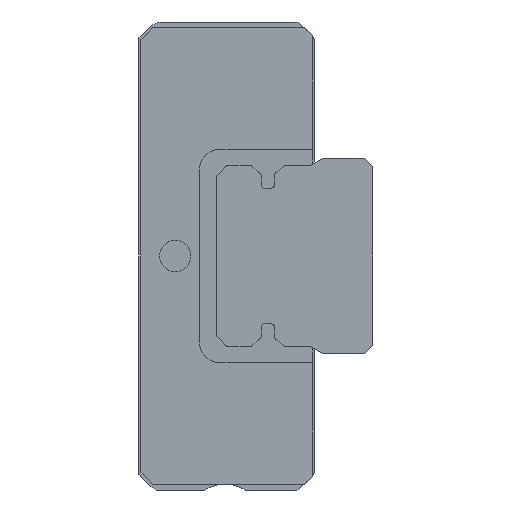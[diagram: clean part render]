
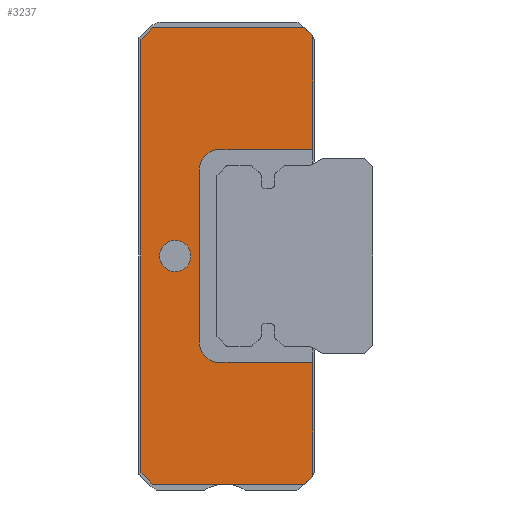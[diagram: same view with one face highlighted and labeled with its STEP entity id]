
A CAD part, left-side view. The second image highlights one B-rep face of the part: STEP entity #3237.
In plain terms, the highlighted planar face has unit normal (-1, 0, 0).
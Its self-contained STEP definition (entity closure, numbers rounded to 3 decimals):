
#215=CIRCLE('',#3553,0.5);
#216=CIRCLE('',#3556,0.5);
#217=CIRCLE('',#3560,0.4);
#927=ORIENTED_EDGE('',*,*,#1567,.F.);
#928=ORIENTED_EDGE('',*,*,#1568,.F.);
#929=ORIENTED_EDGE('',*,*,#1358,.T.);
#930=ORIENTED_EDGE('',*,*,#1356,.T.);
#931=ORIENTED_EDGE('',*,*,#1406,.T.);
#932=ORIENTED_EDGE('',*,*,#1565,.T.);
#933=ORIENTED_EDGE('',*,*,#1563,.T.);
#934=ORIENTED_EDGE('',*,*,#1561,.T.);
#935=ORIENTED_EDGE('',*,*,#1559,.T.);
#936=ORIENTED_EDGE('',*,*,#1566,.T.);
#937=ORIENTED_EDGE('',*,*,#1401,.T.);
#938=ORIENTED_EDGE('',*,*,#1302,.T.);
#939=ORIENTED_EDGE('',*,*,#1299,.T.);
#940=ORIENTED_EDGE('',*,*,#1569,.F.);
#941=ORIENTED_EDGE('',*,*,#1570,.F.);
#1299=EDGE_CURVE('',#1720,#1723,#2028,.T.);
#1302=EDGE_CURVE('',#1725,#1720,#2031,.T.);
#1356=EDGE_CURVE('',#1766,#1772,#2085,.T.);
#1358=EDGE_CURVE('',#1774,#1766,#2087,.T.);
#1401=EDGE_CURVE('',#1801,#1725,#2126,.T.);
#1406=EDGE_CURVE('',#1772,#1804,#2131,.T.);
#1559=EDGE_CURVE('',#1919,#1918,#215,.T.);
#1561=EDGE_CURVE('',#1920,#1919,#2222,.T.);
#1563=EDGE_CURVE('',#1921,#1920,#216,.T.);
#1565=EDGE_CURVE('',#1804,#1921,#2225,.T.);
#1566=EDGE_CURVE('',#1918,#1801,#2226,.T.);
#1567=EDGE_CURVE('',#1922,#1922,#217,.F.);
#1568=EDGE_CURVE('',#1774,#1923,#2227,.T.);
#1569=EDGE_CURVE('',#1924,#1723,#2228,.T.);
#1570=EDGE_CURVE('',#1923,#1924,#2229,.T.);
#1720=VERTEX_POINT('',#4870);
#1723=VERTEX_POINT('',#4875);
#1725=VERTEX_POINT('',#4882);
#1766=VERTEX_POINT('',#4981);
#1772=VERTEX_POINT('',#4992);
#1774=VERTEX_POINT('',#4998);
#1801=VERTEX_POINT('',#5080);
#1804=VERTEX_POINT('',#5088);
#1918=VERTEX_POINT('',#5390);
#1919=VERTEX_POINT('',#5392);
#1920=VERTEX_POINT('',#5396);
#1921=VERTEX_POINT('',#5400);
#1922=VERTEX_POINT('',#5408);
#1923=VERTEX_POINT('',#5410);
#1924=VERTEX_POINT('',#5412);
#2028=LINE('',#4876,#2365);
#2031=LINE('',#4881,#2368);
#2085=LINE('',#4993,#2422);
#2087=LINE('',#4997,#2424);
#2126=LINE('',#5079,#2463);
#2131=LINE('',#5089,#2468);
#2222=LINE('',#5395,#2559);
#2225=LINE('',#5403,#2562);
#2226=LINE('',#5405,#2563);
#2227=LINE('',#5409,#2564);
#2228=LINE('',#5411,#2565);
#2229=LINE('',#5413,#2566);
#2365=VECTOR('',#3932,1000.);
#2368=VECTOR('',#3937,1000.);
#2422=VECTOR('',#4011,1000.);
#2424=VECTOR('',#4015,1000.);
#2463=VECTOR('',#4086,1000.);
#2468=VECTOR('',#4093,1000.);
#2559=VECTOR('',#4384,1000.);
#2562=VECTOR('',#4393,1000.);
#2563=VECTOR('',#4396,1000.);
#2564=VECTOR('',#4401,1000.);
#2565=VECTOR('',#4402,1000.);
#2566=VECTOR('',#4403,1000.);
#2745=EDGE_LOOP('',(#927));
#2746=EDGE_LOOP('',(#928,#929,#930,#931,#932,#933,#934,#935,#936,#937,#938,
#939,#940,#941));
#2944=FACE_BOUND('',#2745,.T.);
#2945=FACE_BOUND('',#2746,.T.);
#3091=PLANE('',#3559);
#3237=ADVANCED_FACE('',(#2944,#2945),#3091,.F.);
#3553=AXIS2_PLACEMENT_3D('',#5391,#4379,#4380);
#3556=AXIS2_PLACEMENT_3D('',#5399,#4388,#4389);
#3559=AXIS2_PLACEMENT_3D('',#5406,#4397,#4398);
#3560=AXIS2_PLACEMENT_3D('',#5407,#4399,#4400);
#3932=DIRECTION('',(0.,1.,0.));
#3937=DIRECTION('',(0.,0.707,0.707));
#4011=DIRECTION('',(0.,-0.707,0.707));
#4015=DIRECTION('',(0.,-1.,0.));
#4086=DIRECTION('',(0.,0.,1.));
#4093=DIRECTION('',(0.,0.,1.));
#4379=DIRECTION('',(1.,0.,0.));
#4380=DIRECTION('',(0.,0.,-1.));
#4384=DIRECTION('',(0.,0.,1.));
#4388=DIRECTION('',(1.,0.,0.));
#4389=DIRECTION('',(0.,0.,-1.));
#4393=DIRECTION('',(0.,1.,0.));
#4396=DIRECTION('',(0.,-1.,0.));
#4397=DIRECTION('',(1.,0.,0.));
#4398=DIRECTION('',(0.,0.,-1.));
#4399=DIRECTION('',(1.,0.,0.));
#4400=DIRECTION('',(0.,0.,-1.));
#4401=DIRECTION('',(0.,0.707,0.707));
#4402=DIRECTION('',(0.,-0.707,0.707));
#4403=DIRECTION('',(0.,0.,1.));
#4870=CARTESIAN_POINT('',(-7.95,0.25,5.85));
#4875=CARTESIAN_POINT('',(-7.95,4.15,5.85));
#4876=CARTESIAN_POINT('',(-7.95,4.1,5.85));
#4881=CARTESIAN_POINT('',(-7.95,0.25,5.85));
#4882=CARTESIAN_POINT('',(-7.95,0.05,5.65));
#4981=CARTESIAN_POINT('',(-7.95,0.25,-5.85));
#4992=CARTESIAN_POINT('',(-7.95,0.05,-5.65));
#4993=CARTESIAN_POINT('',(-7.95,0.05,-5.65));
#4997=CARTESIAN_POINT('',(-7.95,0.25,-5.85));
#4998=CARTESIAN_POINT('',(-7.95,4.15,-5.85));
#5079=CARTESIAN_POINT('',(-7.95,0.05,5.65));
#5080=CARTESIAN_POINT('',(-7.95,0.05,2.73));
#5088=CARTESIAN_POINT('',(-7.95,0.05,-2.73));
#5089=CARTESIAN_POINT('',(-7.95,0.05,5.65));
#5390=CARTESIAN_POINT('',(-7.95,2.45,2.73));
#5391=CARTESIAN_POINT('',(-7.95,2.45,2.23));
#5392=CARTESIAN_POINT('',(-7.95,2.95,2.23));
#5395=CARTESIAN_POINT('',(-7.95,2.95,-2.23));
#5396=CARTESIAN_POINT('',(-7.95,2.95,-2.23));
#5399=CARTESIAN_POINT('',(-7.95,2.45,-2.23));
#5400=CARTESIAN_POINT('',(-7.95,2.45,-2.73));
#5403=CARTESIAN_POINT('',(-7.95,0.05,-2.73));
#5405=CARTESIAN_POINT('',(-7.95,2.45,2.73));
#5406=CARTESIAN_POINT('',(-7.95,0.,0.));
#5407=CARTESIAN_POINT('',(-7.95,3.57,0.));
#5408=CARTESIAN_POINT('',(-7.95,3.57,-0.4));
#5409=CARTESIAN_POINT('',(-7.95,4.15,-5.85));
#5410=CARTESIAN_POINT('',(-7.95,4.45,-5.55));
#5411=CARTESIAN_POINT('',(-7.95,4.45,5.55));
#5412=CARTESIAN_POINT('',(-7.95,4.45,5.55));
#5413=CARTESIAN_POINT('',(-7.95,4.45,-5.55));
